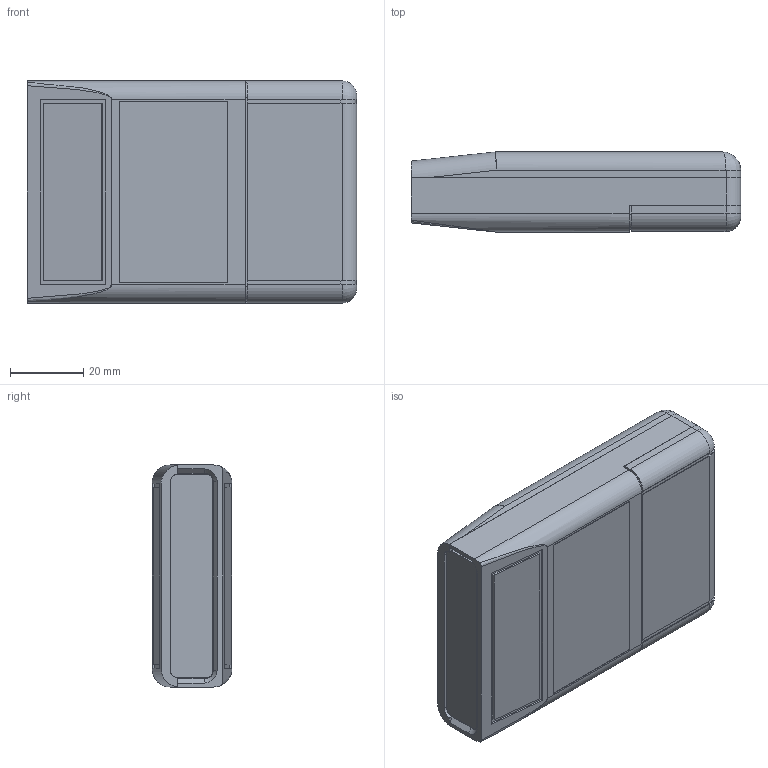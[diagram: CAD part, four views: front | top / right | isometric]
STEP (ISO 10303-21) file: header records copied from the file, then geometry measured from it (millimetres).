
FILE_DESCRIPTION (( 'STEP AP214' ), '1' );
FILE_NAME ('Conjunt PP64A.STEP', '2017-09-06T07:27:33', ( 'aaa' ), ( '' ), 'SwSTEP 2.0', 'SolidWorks 2013', '' );
FILE_SCHEMA (( 'AUTOMOTIVE_DESIGN' ));
Length unit declared in the file: millimetre
Products named in the file (8): Tapeta Botones PP64A; Tapa Trasera PP64A; Cargol 2,1x6,5 PP64A; Cargol 2,2x13 PP64A; Tapa delantera PP64A; Tapa PP64A; Cuerpo PP64A; Conjunt PP64A
Assembly tree (10 placements, depth 2):
  Conjunt PP64A
    Cuerpo PP64A
    Tapa PP64A
    Tapa delantera PP64A
    Cargol 2,2x13 PP64A  x2
    Cargol 2,1x6,5 PP64A  x3
    Tapa Trasera PP64A
    Tapeta Botones PP64A
Bounding box: 90 x 21.8 x 60.7 mm (x, y, z)
Volume: 37171.1 mm3; surface area: 39997.5 mm2
Topology: 10 solids, 10 shells, 799 faces, 1911 edges, 1149 vertices
Faces by surface type: plane 377, cone 314, cylinder 92, bspline 8, torus 8
Entity records: 17370 total; most frequent: CARTESIAN_POINT 3360, ORIENTED_EDGE 2842, DIRECTION 2821, EDGE_CURVE 1421, LINE 1075, VECTOR 1075, VERTEX_POINT 890, AXIS2_PLACEMENT_3D 873
